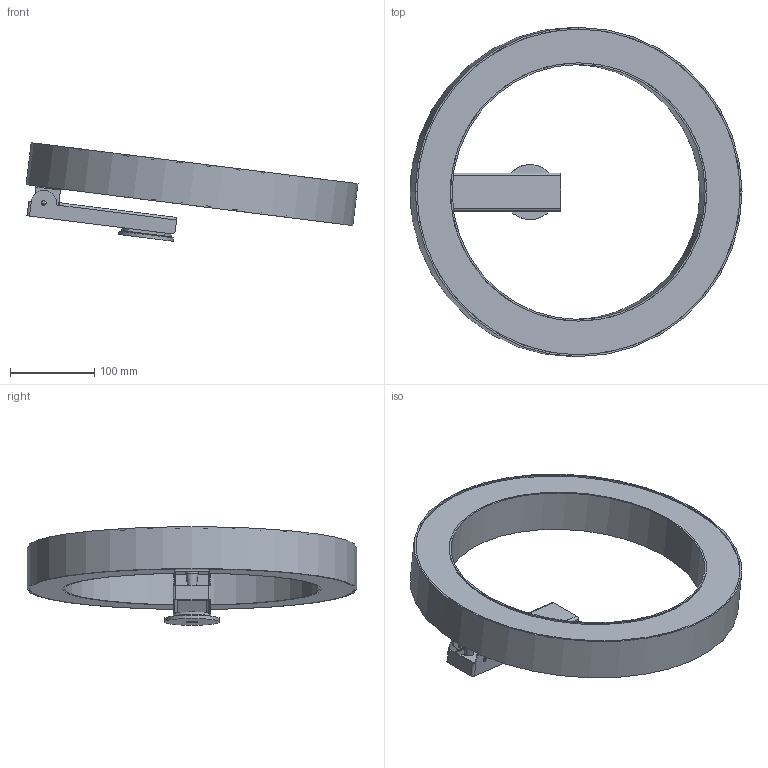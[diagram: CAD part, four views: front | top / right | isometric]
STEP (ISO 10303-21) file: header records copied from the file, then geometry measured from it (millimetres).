
FILE_DESCRIPTION(/* description */ ('SUPER OH! XS PIVOT 39 DIM8'),/* implementation_level */ '2;1');
FILE_NAME(/* name */ 'C:\Users\allu.DELTA\Desktop\308_22_03_XX_CAD.stp',/* time_stamp */ '2021-10-11T13:33:44+02:00',/* author */ ('allu'),/* organization */ (''),/* preprocessor_version */ 'ST-DEVELOPER v18.1',/* originating_system */ 'Autodesk Inventor 2020',/* authorisation */ '');
FILE_SCHEMA (('AUTOMOTIVE_DESIGN { 1 0 10303 214 3 1 1 }'));
Length unit declared in the file: millimetre
Products named in the file (11): 35333; P5462; 34434; 34435; 35332; 35327; P5489; 35343; 172 88 00 11 07; 21403; 21402
Assembly tree (10 placements, depth 3):
  35333
    P5462
    34434
    34435
    35332
      35327
    P5489
    35343
    172 88 00 11 07
    21403
    21402
Bounding box: 393.19 x 390 x 116.71 mm (x, y, z)
Volume: 532867.7 mm3; surface area: 578383.8 mm2
Topology: 9 solids, 9 shells, 117 faces, 272 edges, 177 vertices
Faces by surface type: plane 68, cylinder 44, cone 5
Full cylindrical faces by diameter (mm): 5.5 x4, 13.5 x2, 14.6 x1, 22 x1, 65 x1, 302 x1, 306 x2, 307 x1, 310.577 x1, 385 x1, 386 x2, 390 x1
Entity records: 3824 total; most frequent: DIRECTION 653, CARTESIAN_POINT 587, ORIENTED_EDGE 544, EDGE_CURVE 272, AXIS2_PLACEMENT_3D 243, VERTEX_POINT 177, LINE 167, VECTOR 167
